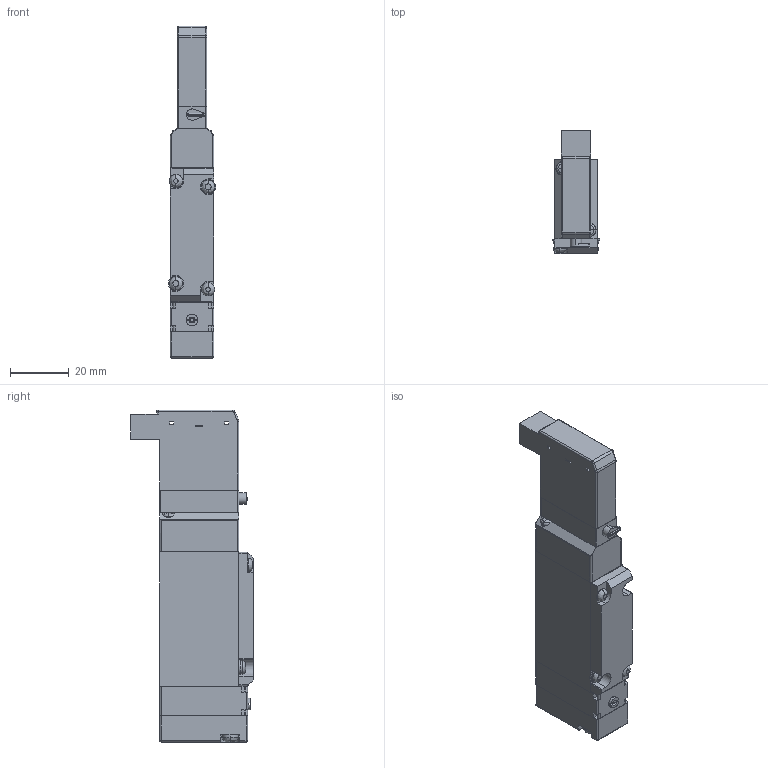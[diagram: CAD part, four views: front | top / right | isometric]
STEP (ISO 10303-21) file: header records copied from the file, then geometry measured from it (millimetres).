
FILE_DESCRIPTION( (''), '2;1');
FILE_NAME ('CVICAD02.3360.F15T2-R-A1_21749.stp','2021-07-12T19:14:08',(''),(''),'spGate 12.6.6','','');
FILE_SCHEMA (('AUTOMOTIVE_DESIGN'));
Length unit declared in the file: millimetre
Products named in the file (8): Assembly; CVICAD02-prt0; CVICAD02-prt1; CVICAD02-prt2; CVICAD02-prt3; CVICAD02-prt4; CVICAD02-prt5; CVICAD02-prt6
Assembly tree (7 placements, depth 2):
  Assembly
    CVICAD02-prt0
    CVICAD02-prt1
    CVICAD02-prt2
    CVICAD02-prt3
    CVICAD02-prt4
    CVICAD02-prt5
    CVICAD02-prt6
Bounding box: 16.2 x 42 x 113.5 mm (x, y, z)
Volume: 45123.9 mm3; surface area: 17211.1 mm2
Topology: 7 solids, 7 shells, 297 faces, 754 edges, 473 vertices
Faces by surface type: plane 153, cylinder 109, bspline 26, sphere 9
Entity records: 15390 total; most frequent: CARTESIAN_POINT 2247, ORIENTED_EDGE 1482, DIRECTION 1417, COLOUR_RGB 1045, PRESENTATION_STYLE_ASSIGNMENT 1045, STYLED_ITEM 1045, EDGE_CURVE 741, DRAUGHTING_PRE_DEFINED_CURVE_FONT 741
